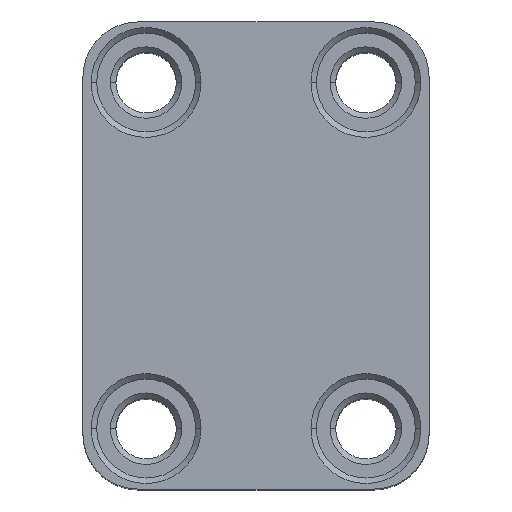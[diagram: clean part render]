
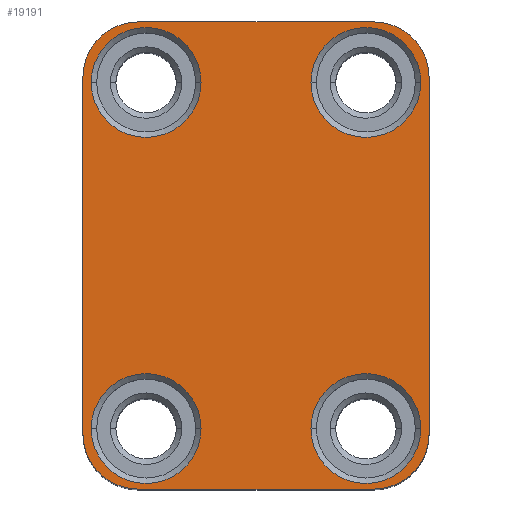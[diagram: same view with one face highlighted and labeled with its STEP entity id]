
A CAD part, top view. The second image highlights one B-rep face of the part: STEP entity #19191.
In plain terms, the highlighted planar face has unit normal (0, 0, 1).
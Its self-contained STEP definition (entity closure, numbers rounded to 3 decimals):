
#110 = ORIENTED_EDGE ( 'NONE', *, *, #2095, .T. ) ;
#282 = FACE_BOUND ( 'NONE', #8739, .T. ) ;
#283 = CARTESIAN_POINT ( 'NONE',  ( 41.5, 74., 104. ) ) ;
#288 = CARTESIAN_POINT ( 'NONE',  ( 63., 10., 104. ) ) ;
#345 = CARTESIAN_POINT ( 'NONE',  ( 21.5, 11., 104. ) ) ;
#557 = CARTESIAN_POINT ( 'NONE',  ( 51.5, 74., 104. ) ) ;
#714 = DIRECTION ( 'NONE',  ( -1., 0., 0. ) ) ;
#1072 = CARTESIAN_POINT ( 'NONE',  ( 10., 75., 104. ) ) ;
#1119 = CARTESIAN_POINT ( 'NONE',  ( 53., 0., 104. ) ) ;
#1202 = EDGE_CURVE ( 'NONE', #20631, #8025, #7816, .T. ) ;
#1325 = EDGE_CURVE ( 'NONE', #8587, #21503, #19862, .T. ) ;
#1744 = VECTOR ( 'NONE', #14398, 1000. ) ;
#2015 = VERTEX_POINT ( 'NONE', #283 ) ;
#2095 = EDGE_CURVE ( 'NONE', #8372, #8587, #8616, .T. ) ;
#2297 = FACE_BOUND ( 'NONE', #14505, .T. ) ;
#2430 = DIRECTION ( 'NONE',  ( -1., 0., 0. ) ) ;
#2435 = DIRECTION ( 'NONE',  ( -1., 0., 0. ) ) ;
#2798 = CARTESIAN_POINT ( 'NONE',  ( 63., 0., 104. ) ) ;
#3006 = EDGE_LOOP ( 'NONE', ( #6338, #11679 ) ) ;
#3193 = EDGE_CURVE ( 'NONE', #23511, #3299, #11303, .T. ) ;
#3299 = VERTEX_POINT ( 'NONE', #13997 ) ;
#3564 = AXIS2_PLACEMENT_3D ( 'NONE', #24041, #15819, #15686 ) ;
#3567 = CARTESIAN_POINT ( 'NONE',  ( 1.5, 74., 104. ) ) ;
#3902 = CIRCLE ( 'NONE', #25387, 10. ) ;
#3930 = DIRECTION ( 'NONE',  ( -1., 0., 0. ) ) ;
#4050 = DIRECTION ( 'NONE',  ( -1., 0., 0. ) ) ;
#4077 = VERTEX_POINT ( 'NONE', #7178 ) ;
#4383 = VECTOR ( 'NONE', #14891, 1000. ) ;
#4850 = DIRECTION ( 'NONE',  ( 0., 0., 1. ) ) ;
#5181 = CIRCLE ( 'NONE', #21944, 10. ) ;
#5272 = ORIENTED_EDGE ( 'NONE', *, *, #6600, .T. ) ;
#5572 = VERTEX_POINT ( 'NONE', #3567 ) ;
#5744 = EDGE_LOOP ( 'NONE', ( #5272, #17679 ) ) ;
#5837 = CARTESIAN_POINT ( 'NONE',  ( 11.5, 74., 104. ) ) ;
#5871 = VERTEX_POINT ( 'NONE', #6314 ) ;
#5897 = ORIENTED_EDGE ( 'NONE', *, *, #12120, .T. ) ;
#6314 = CARTESIAN_POINT ( 'NONE',  ( 21.5, 74., 104. ) ) ;
#6338 = ORIENTED_EDGE ( 'NONE', *, *, #1202, .T. ) ;
#6556 = VECTOR ( 'NONE', #14523, 1000. ) ;
#6600 = EDGE_CURVE ( 'NONE', #3299, #23511, #23535, .T. ) ;
#6622 = DIRECTION ( 'NONE',  ( 0., 0., -1. ) ) ;
#6752 = DIRECTION ( 'NONE',  ( -1., 0., 0. ) ) ;
#6757 = DIRECTION ( 'NONE',  ( 0., 0., 1. ) ) ;
#6878 = DIRECTION ( 'NONE',  ( 0., 0., -1. ) ) ;
#7178 = CARTESIAN_POINT ( 'NONE',  ( 61.5, 74., 104. ) ) ;
#7278 = LINE ( 'NONE', #23284, #13194 ) ;
#7816 = CIRCLE ( 'NONE', #11250, 10. ) ;
#7854 = VERTEX_POINT ( 'NONE', #1119 ) ;
#7908 = CIRCLE ( 'NONE', #10900, 10. ) ;
#7951 = CARTESIAN_POINT ( 'NONE',  ( 0., 10., 104. ) ) ;
#7968 = FACE_BOUND ( 'NONE', #5744, .T. ) ;
#8025 = VERTEX_POINT ( 'NONE', #14667 ) ;
#8048 = DIRECTION ( 'NONE',  ( -1., 0., 0. ) ) ;
#8087 = LINE ( 'NONE', #24632, #1744 ) ;
#8200 = CIRCLE ( 'NONE', #12080, 10. ) ;
#8372 = VERTEX_POINT ( 'NONE', #26057 ) ;
#8442 = CARTESIAN_POINT ( 'NONE',  ( 51.5, 74., 104. ) ) ;
#8587 = VERTEX_POINT ( 'NONE', #14709 ) ;
#8616 = LINE ( 'NONE', #14928, #6556 ) ;
#8739 = EDGE_LOOP ( 'NONE', ( #19883, #15463 ) ) ;
#9028 = DIRECTION ( 'NONE',  ( 0., -1., 0. ) ) ;
#9103 = CIRCLE ( 'NONE', #15945, 10. ) ;
#9150 = EDGE_CURVE ( 'NONE', #21503, #16192, #7278, .T. ) ;
#9979 = DIRECTION ( 'NONE',  ( -1., 0., 0. ) ) ;
#10028 = AXIS2_PLACEMENT_3D ( 'NONE', #12673, #20869, #2435 ) ;
#10290 = ORIENTED_EDGE ( 'NONE', *, *, #1325, .T. ) ;
#10900 = AXIS2_PLACEMENT_3D ( 'NONE', #13533, #21734, #19988 ) ;
#11250 = AXIS2_PLACEMENT_3D ( 'NONE', #20318, #18279, #4050 ) ;
#11303 = CIRCLE ( 'NONE', #10028, 10. ) ;
#11679 = ORIENTED_EDGE ( 'NONE', *, *, #22186, .T. ) ;
#11988 = VERTEX_POINT ( 'NONE', #14692 ) ;
#12080 = AXIS2_PLACEMENT_3D ( 'NONE', #24876, #12504, #16791 ) ;
#12096 = AXIS2_PLACEMENT_3D ( 'NONE', #557, #6878, #2430 ) ;
#12120 = EDGE_CURVE ( 'NONE', #11988, #7854, #8087, .T. ) ;
#12366 = AXIS2_PLACEMENT_3D ( 'NONE', #23167, #14690, #714 ) ;
#12465 = ORIENTED_EDGE ( 'NONE', *, *, #20194, .T. ) ;
#12504 = DIRECTION ( 'NONE',  ( 0., 0., 1. ) ) ;
#12578 = ORIENTED_EDGE ( 'NONE', *, *, #22676, .T. ) ;
#12673 = CARTESIAN_POINT ( 'NONE',  ( 51.5, 11., 104. ) ) ;
#12741 = ORIENTED_EDGE ( 'NONE', *, *, #20023, .T. ) ;
#12870 = EDGE_CURVE ( 'NONE', #16192, #11988, #8200, .T. ) ;
#13194 = VECTOR ( 'NONE', #9028, 1000. ) ;
#13208 = DIRECTION ( 'NONE',  ( 0., 0., -1. ) ) ;
#13533 = CARTESIAN_POINT ( 'NONE',  ( 53., 10., 104. ) ) ;
#13932 = AXIS2_PLACEMENT_3D ( 'NONE', #18816, #6622, #6752 ) ;
#13997 = CARTESIAN_POINT ( 'NONE',  ( 61.5, 11., 104. ) ) ;
#14267 = FACE_BOUND ( 'NONE', #3006, .T. ) ;
#14398 = DIRECTION ( 'NONE',  ( 1., 0., 0. ) ) ;
#14505 = EDGE_LOOP ( 'NONE', ( #12741, #18333 ) ) ;
#14523 = DIRECTION ( 'NONE',  ( -1., 0., 0. ) ) ;
#14667 = CARTESIAN_POINT ( 'NONE',  ( 1.5, 11., 104. ) ) ;
#14690 = DIRECTION ( 'NONE',  ( 0., 0., -1. ) ) ;
#14692 = CARTESIAN_POINT ( 'NONE',  ( 10., 0., 104. ) ) ;
#14709 = CARTESIAN_POINT ( 'NONE',  ( 10., 85., 104. ) ) ;
#14891 = DIRECTION ( 'NONE',  ( 0., 1., 0. ) ) ;
#14928 = CARTESIAN_POINT ( 'NONE',  ( 0., 85., 104. ) ) ;
#15463 = ORIENTED_EDGE ( 'NONE', *, *, #15535, .T. ) ;
#15535 = EDGE_CURVE ( 'NONE', #2015, #4077, #20785, .T. ) ;
#15686 = DIRECTION ( 'NONE',  ( -1., 0., 0. ) ) ;
#15702 = ORIENTED_EDGE ( 'NONE', *, *, #9150, .T. ) ;
#15819 = DIRECTION ( 'NONE',  ( 0., 0., -1. ) ) ;
#15845 = EDGE_CURVE ( 'NONE', #7854, #20134, #7908, .T. ) ;
#15945 = AXIS2_PLACEMENT_3D ( 'NONE', #23432, #13208, #9979 ) ;
#16192 = VERTEX_POINT ( 'NONE', #7951 ) ;
#16791 = DIRECTION ( 'NONE',  ( -1., 0., 0. ) ) ;
#17112 = ORIENTED_EDGE ( 'NONE', *, *, #12870, .T. ) ;
#17249 = VERTEX_POINT ( 'NONE', #21910 ) ;
#17679 = ORIENTED_EDGE ( 'NONE', *, *, #3193, .T. ) ;
#18127 = CIRCLE ( 'NONE', #3564, 10. ) ;
#18279 = DIRECTION ( 'NONE',  ( 0., 0., -1. ) ) ;
#18333 = ORIENTED_EDGE ( 'NONE', *, *, #23625, .T. ) ;
#18816 = CARTESIAN_POINT ( 'NONE',  ( 0., 0., 104. ) ) ;
#19191 = ADVANCED_FACE ( 'NONE', ( #14267, #7968, #2297, #282, #24362 ), #22481, .F. ) ;
#19862 = CIRCLE ( 'NONE', #25460, 10. ) ;
#19883 = ORIENTED_EDGE ( 'NONE', *, *, #25478, .T. ) ;
#19988 = DIRECTION ( 'NONE',  ( -1., 0., 0. ) ) ;
#20023 = EDGE_CURVE ( 'NONE', #5871, #5572, #3902, .T. ) ;
#20134 = VERTEX_POINT ( 'NONE', #288 ) ;
#20194 = EDGE_CURVE ( 'NONE', #17249, #8372, #5181, .T. ) ;
#20198 = DIRECTION ( 'NONE',  ( 0., 0., -1. ) ) ;
#20318 = CARTESIAN_POINT ( 'NONE',  ( 11.5, 11., 104. ) ) ;
#20631 = VERTEX_POINT ( 'NONE', #345 ) ;
#20785 = CIRCLE ( 'NONE', #26372, 10. ) ;
#20869 = DIRECTION ( 'NONE',  ( 0., 0., -1. ) ) ;
#21118 = CIRCLE ( 'NONE', #12096, 10. ) ;
#21503 = VERTEX_POINT ( 'NONE', #22082 ) ;
#21734 = DIRECTION ( 'NONE',  ( 0., 0., 1. ) ) ;
#21910 = CARTESIAN_POINT ( 'NONE',  ( 63., 75., 104. ) ) ;
#21944 = AXIS2_PLACEMENT_3D ( 'NONE', #23143, #6757, #25308 ) ;
#22082 = CARTESIAN_POINT ( 'NONE',  ( 0., 75., 104. ) ) ;
#22186 = EDGE_CURVE ( 'NONE', #8025, #20631, #9103, .T. ) ;
#22481 = PLANE ( 'NONE',  #13932 ) ;
#22576 = CARTESIAN_POINT ( 'NONE',  ( 41.5, 11., 104. ) ) ;
#22676 = EDGE_CURVE ( 'NONE', #20134, #17249, #23501, .T. ) ;
#22719 = EDGE_LOOP ( 'NONE', ( #15702, #17112, #5897, #24354, #12578, #12465, #110, #10290 ) ) ;
#23143 = CARTESIAN_POINT ( 'NONE',  ( 53., 75., 104. ) ) ;
#23167 = CARTESIAN_POINT ( 'NONE',  ( 51.5, 11., 104. ) ) ;
#23284 = CARTESIAN_POINT ( 'NONE',  ( 0., 0., 104. ) ) ;
#23432 = CARTESIAN_POINT ( 'NONE',  ( 11.5, 11., 104. ) ) ;
#23501 = LINE ( 'NONE', #2798, #4383 ) ;
#23511 = VERTEX_POINT ( 'NONE', #22576 ) ;
#23535 = CIRCLE ( 'NONE', #12366, 10. ) ;
#23625 = EDGE_CURVE ( 'NONE', #5572, #5871, #18127, .T. ) ;
#24041 = CARTESIAN_POINT ( 'NONE',  ( 11.5, 74., 104. ) ) ;
#24354 = ORIENTED_EDGE ( 'NONE', *, *, #15845, .T. ) ;
#24362 = FACE_OUTER_BOUND ( 'NONE', #22719, .T. ) ;
#24632 = CARTESIAN_POINT ( 'NONE',  ( 0., 0., 104. ) ) ;
#24876 = CARTESIAN_POINT ( 'NONE',  ( 10., 10., 104. ) ) ;
#24991 = DIRECTION ( 'NONE',  ( 0., 0., -1. ) ) ;
#25308 = DIRECTION ( 'NONE',  ( -1., 0., 0. ) ) ;
#25387 = AXIS2_PLACEMENT_3D ( 'NONE', #5837, #20198, #3930 ) ;
#25425 = DIRECTION ( 'NONE',  ( -1., 0., 0. ) ) ;
#25460 = AXIS2_PLACEMENT_3D ( 'NONE', #1072, #4850, #25425 ) ;
#25478 = EDGE_CURVE ( 'NONE', #4077, #2015, #21118, .T. ) ;
#26057 = CARTESIAN_POINT ( 'NONE',  ( 53., 85., 104. ) ) ;
#26372 = AXIS2_PLACEMENT_3D ( 'NONE', #8442, #24991, #8048 ) ;
